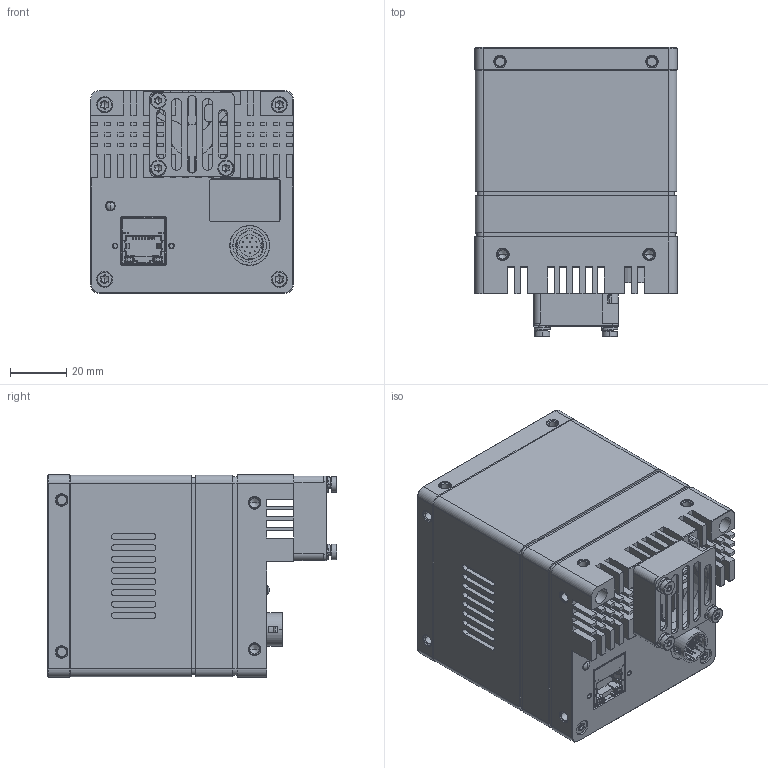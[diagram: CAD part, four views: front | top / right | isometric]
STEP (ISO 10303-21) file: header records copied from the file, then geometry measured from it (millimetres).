
FILE_DESCRIPTION((''),'2;1');
FILE_NAME('DH3-1878-6036_1','2024-01-23T09:57:35',('309376'),(''),'CREO PARAMETRIC BY PTC INC, 2020184','CREO PARAMETRIC BY PTC INC, 2020184','');
FILE_SCHEMA(('CONFIG_CONTROL_DESIGN','SHAPE_APPEARANCE_LAYERS_GROUPS'));
Products named in the file (1): DH3-1878-6036_1
Bounding box: 72 x 102.82 x 72 mm (x, y, z)
Volume: 388311.8 mm3; surface area: 77232.5 mm2
Topology: 1 solids, 100 shells, 2771 faces, 7612 edges, 4922 vertices
Faces by surface type: plane 1392, cylinder 955, cone 268, bspline 100, torus 50, sphere 6
Entity records: 125465 total; most frequent: CARTESIAN_POINT 26572, DIRECTION 15141, ORIENTED_EDGE 14694, PRESENTATION_STYLE_ASSIGNMENT 8183, STYLED_ITEM 7562, CURVE_STYLE 7497, EDGE_CURVE 7497, AXIS2_PLACEMENT_3D 5425
